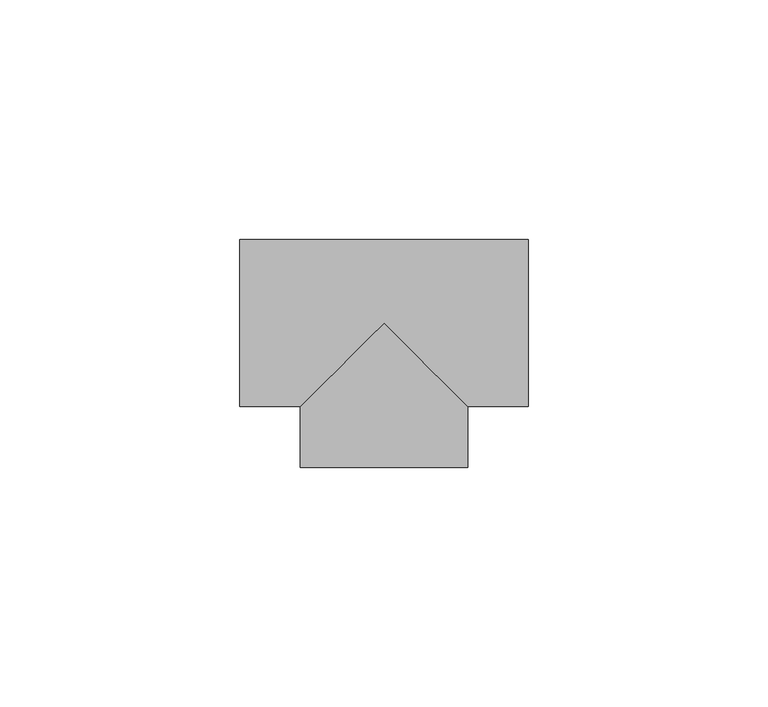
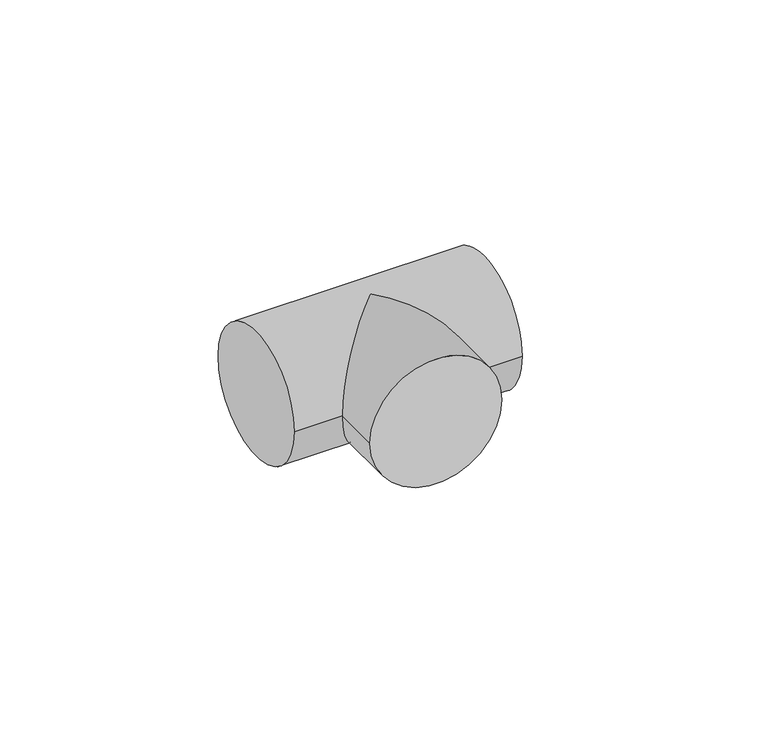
"""IFC4 building model written with IfcOpenShell, lengths in millimetres: pipe fitting geometry, M_Te - Genérica : Estándar."""

from ifc_helpers import new_model, si_unit, frame, origin, place, context, project, spatial, circle_curve, ellipse_curve, source, transform, mapped, element, save
from ifc_brep_helpers import plane_surface, cylinder_surface, advanced_brep


def pipe_fitting_e297dbca(model_context):
    return source(origin(), model_context, "Body", "AdvancedBrep", [
        advanced_brep(
        [(-30.1625, -17.4625, 0.0), (-30.1625, 17.4625, 0.0), (30.1625, -17.4625, 0.0), (30.1625, 17.4625, 0.0), (-17.4625, -17.4625, 0.0), (0.0, 0.0, 17.4625), (17.4625, -17.4625, 0.0), (0.0, 0.0, -17.4625), (-17.4625, -30.1625, 0.0), (17.4625, -30.1625, 0.0)],
        [
            (0, 1, circle_curve(frame((-30.1625, 0.0, 0.0), z_axis=(-1.0, 0.0, 0.0), x_axis=(0.0, 1.0, 0.0)), 17.4625)),
            (1, 0, circle_curve(frame((-30.1625, 0.0, 0.0), z_axis=(-1.0, 0.0, 0.0), x_axis=(0.0, 1.0, 0.0)), 17.4625)),
            (2, 3, circle_curve(frame((30.1625, 0.0, 0.0), z_axis=(1.0, 0.0, 0.0), x_axis=(0.0, 1.0, 0.0)), 17.4625)),
            (3, 2, circle_curve(frame((30.1625, 0.0, 0.0), z_axis=(1.0, 0.0, 0.0), x_axis=(0.0, 1.0, 0.0)), 17.4625)),
            (0, 4),
            (4, 5, ellipse_curve(frame((0.0, 0.0, 0.0), z_axis=(-0.707106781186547, 0.7071067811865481, 0.0), x_axis=(-0.707106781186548, -0.707106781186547, 0.0)), 24.6957043, 17.4625)),
            (5, 6, ellipse_curve(frame((0.0, 0.0, 0.0), z_axis=(0.707106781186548, 0.7071067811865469, 0.0), x_axis=(-0.707106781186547, 0.707106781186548, 0.0)), 24.6957043, 17.4625)),
            (6, 2),
            (3, 1),
            (6, 7, ellipse_curve(frame((0.0, 0.0, 0.0), z_axis=(0.707106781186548, 0.7071067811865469, 0.0), x_axis=(-0.707106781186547, 0.707106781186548, 0.0)), 24.6957043, 17.4625)),
            (7, 4, ellipse_curve(frame((0.0, 0.0, 0.0), z_axis=(-0.707106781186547, 0.7071067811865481, 0.0), x_axis=(-0.707106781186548, -0.707106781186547, 0.0)), 24.6957043, 17.4625)),
            (8, 9, circle_curve(frame((0.0, -30.1625, 0.0), z_axis=(0.0, -1.0, 0.0), x_axis=(1.0, 0.0, 0.0)), 17.4625)),
            (9, 8, circle_curve(frame((0.0, -30.1625, 0.0), z_axis=(0.0, -1.0, 0.0), x_axis=(1.0, 0.0, 0.0)), 17.4625)),
            (9, 6),
            (4, 8),
        ],
        [
            plane_surface(frame((-30.1625, 0.0, 0.0), z_axis=(-1.0, 0.0, 0.0), x_axis=(0.0, 0.0, 1.0))),
            plane_surface(frame((30.1625, 0.0, 0.0), z_axis=(1.0, 0.0, 0.0), x_axis=(0.0, 0.0, 1.0))),
            cylinder_surface(frame((-30.1625, 0.0, 0.0), z_axis=(-1.0, 0.0, 0.0), x_axis=(0.0, 1.0, 0.0)), 17.4625),
            plane_surface(frame((0.0, -30.1625, 0.0), z_axis=(0.0, -1.0, 0.0), x_axis=(0.0, 0.0, 1.0))),
            cylinder_surface(frame((0.0, 0.0, 0.0), z_axis=(0.0, 1.0, 0.0), x_axis=(1.0, 0.0, 0.0)), 17.4625),
        ],
        [
            (0, [[1, 2]]),
            (1, [[3, 4]]),
            (2, [[-1, 5, 6, 7, 8, -4, 9]]),
            (2, [[-2, -9, -3, -8, 10, 11, -5]]),
            (3, [[12, 13]]),
            (4, [[-13, 14, -7, -6, 15]]),
            (4, [[-12, -15, -11, -10, -14]]),
        ],
    ),
    ])


if __name__ == "__main__":
    model = new_model("IFC4")
    model_context = context("Model", 3, world=origin())
    ifc_project = project(units=[si_unit("LENGTHUNIT", "METRE", prefix="MILLI")], contexts=[model_context])
    site = spatial("IfcSite", under=ifc_project)
    building = spatial("IfcBuilding", under=site)
    placement = place(None, origin())
    pipe_fitting_shape = pipe_fitting_e297dbca(model_context)
    element("IfcPipeFitting", 1, ObjectType="M_Te - Genérica : Estándar", at=placement, inside=building, context=model_context, shape_type="MappedRepresentation", body=[
        mapped(pipe_fitting_shape, transform((0.0, 0.0, 0.0), x_axis=(1.0, 0.0, 0.0), y_axis=(0.0, 1.0, 0.0), z_axis=(0.0, 0.0, 1.0))),
    ])
    save(model, "model.ifc")
